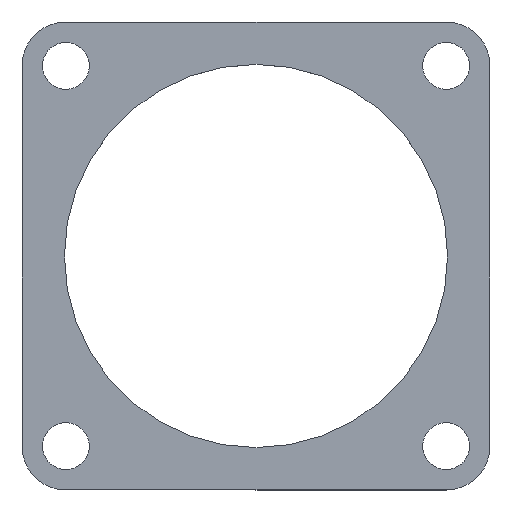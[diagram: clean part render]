
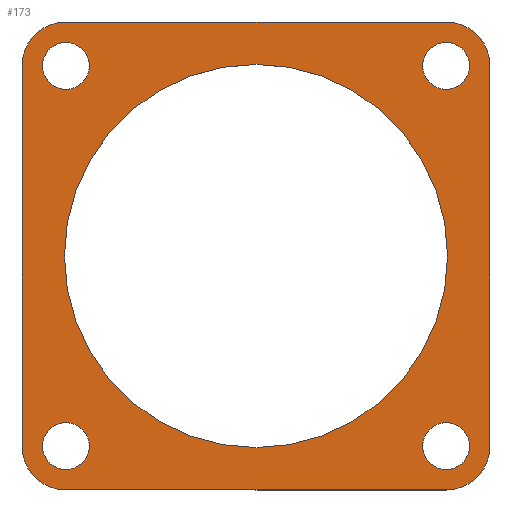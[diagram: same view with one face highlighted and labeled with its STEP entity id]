
A CAD part, top view. The second image highlights one B-rep face of the part: STEP entity #173.
In plain terms, the highlighted planar face has unit normal (0, 0, 1).
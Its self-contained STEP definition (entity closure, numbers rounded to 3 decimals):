
#1 = AXIS2_PLACEMENT_3D ( 'NONE', #299, #429, #178 ) ;
#6 = CARTESIAN_POINT ( 'NONE',  ( -13., 16., 1. ) ) ;
#10 = FACE_BOUND ( 'NONE', #175, .T. ) ;
#15 = EDGE_CURVE ( 'NONE', #332, #332, #71, .T. ) ;
#24 = VERTEX_POINT ( 'NONE', #499 ) ;
#29 = CIRCLE ( 'NONE', #315, 3. ) ;
#39 = EDGE_LOOP ( 'NONE', ( #193 ) ) ;
#45 = ORIENTED_EDGE ( 'NONE', *, *, #65, .T. ) ;
#48 = PLANE ( 'NONE',  #1 ) ;
#51 = FACE_BOUND ( 'NONE', #88, .T. ) ;
#53 = DIRECTION ( 'NONE',  ( 0., 0., 1. ) ) ;
#54 = DIRECTION ( 'NONE',  ( -1., 0., 0. ) ) ;
#64 = CIRCLE ( 'NONE', #384, 1.6 ) ;
#65 = EDGE_CURVE ( 'NONE', #491, #221, #113, .T. ) ;
#71 = CIRCLE ( 'NONE', #387, 1.6 ) ;
#73 = AXIS2_PLACEMENT_3D ( 'NONE', #118, #234, #228 ) ;
#76 = EDGE_CURVE ( 'NONE', #126, #126, #192, .T. ) ;
#77 = CIRCLE ( 'NONE', #73, 3. ) ;
#78 = CARTESIAN_POINT ( 'NONE',  ( 14.6, -13., 1. ) ) ;
#81 = CARTESIAN_POINT ( 'NONE',  ( -13., -16., 1. ) ) ;
#86 = AXIS2_PLACEMENT_3D ( 'NONE', #301, #53, #256 ) ;
#87 = VECTOR ( 'NONE', #54, 1000. ) ;
#88 = EDGE_LOOP ( 'NONE', ( #351 ) ) ;
#90 = VECTOR ( 'NONE', #110, 1000. ) ;
#94 = CARTESIAN_POINT ( 'NONE',  ( -13., -13., 1. ) ) ;
#102 = DIRECTION ( 'NONE',  ( 0., 0., 1. ) ) ;
#104 = DIRECTION ( 'NONE',  ( 1., 0., 0. ) ) ;
#108 = EDGE_CURVE ( 'NONE', #440, #491, #531, .T. ) ;
#109 = CARTESIAN_POINT ( 'NONE',  ( 16., -13., 1. ) ) ;
#110 = DIRECTION ( 'NONE',  ( 1., 0., 0. ) ) ;
#113 = LINE ( 'NONE', #6, #87 ) ;
#118 = CARTESIAN_POINT ( 'NONE',  ( -13., 13., 1. ) ) ;
#119 = CARTESIAN_POINT ( 'NONE',  ( -11.4, -13., 1. ) ) ;
#124 = CARTESIAN_POINT ( 'NONE',  ( 13., 13., 1. ) ) ;
#125 = AXIS2_PLACEMENT_3D ( 'NONE', #436, #146, #522 ) ;
#126 = VERTEX_POINT ( 'NONE', #78 ) ;
#128 = LINE ( 'NONE', #189, #202 ) ;
#129 = ORIENTED_EDGE ( 'NONE', *, *, #137, .F. ) ;
#131 = DIRECTION ( 'NONE',  ( 0., 0., 1. ) ) ;
#133 = VERTEX_POINT ( 'NONE', #373 ) ;
#137 = EDGE_CURVE ( 'NONE', #219, #219, #512, .T. ) ;
#141 = EDGE_CURVE ( 'NONE', #270, #403, #526, .T. ) ;
#142 = DIRECTION ( 'NONE',  ( 0., 0., 1. ) ) ;
#146 = DIRECTION ( 'NONE',  ( 0., 0., 1. ) ) ;
#154 = FACE_BOUND ( 'NONE', #293, .T. ) ;
#173 = ADVANCED_FACE ( 'NONE', ( #154, #51, #490, #484, #274, #10 ), #48, .T. ) ;
#175 = EDGE_LOOP ( 'NONE', ( #469 ) ) ;
#178 = DIRECTION ( 'NONE',  ( 1., 0., 0. ) ) ;
#179 = LINE ( 'NONE', #528, #90 ) ;
#182 = EDGE_CURVE ( 'NONE', #304, #304, #377, .T. ) ;
#189 = CARTESIAN_POINT ( 'NONE',  ( 16., 13., 1. ) ) ;
#191 = EDGE_CURVE ( 'NONE', #24, #500, #479, .T. ) ;
#192 = CIRCLE ( 'NONE', #240, 1.6 ) ;
#193 = ORIENTED_EDGE ( 'NONE', *, *, #182, .F. ) ;
#196 = CARTESIAN_POINT ( 'NONE',  ( -13., -13., 1. ) ) ;
#202 = VECTOR ( 'NONE', #348, 1000. ) ;
#211 = DIRECTION ( 'NONE',  ( 0., 0., 1. ) ) ;
#219 = VERTEX_POINT ( 'NONE', #119 ) ;
#221 = VERTEX_POINT ( 'NONE', #520 ) ;
#228 = DIRECTION ( 'NONE',  ( -1., 0., 0. ) ) ;
#234 = DIRECTION ( 'NONE',  ( 0., 0., 1. ) ) ;
#240 = AXIS2_PLACEMENT_3D ( 'NONE', #514, #211, #472 ) ;
#249 = ORIENTED_EDGE ( 'NONE', *, *, #191, .T. ) ;
#255 = DIRECTION ( 'NONE',  ( 0., 0., 1. ) ) ;
#256 = DIRECTION ( 'NONE',  ( -1., 0., 0. ) ) ;
#261 = DIRECTION ( 'NONE',  ( 0., -1., 0. ) ) ;
#262 = VECTOR ( 'NONE', #261, 1000. ) ;
#264 = EDGE_LOOP ( 'NONE', ( #457 ) ) ;
#270 = VERTEX_POINT ( 'NONE', #517 ) ;
#271 = EDGE_CURVE ( 'NONE', #403, #440, #128, .T. ) ;
#274 = FACE_BOUND ( 'NONE', #264, .T. ) ;
#275 = DIRECTION ( 'NONE',  ( 0., 0., 1. ) ) ;
#281 = CARTESIAN_POINT ( 'NONE',  ( 13.1, 0., 1. ) ) ;
#293 = EDGE_LOOP ( 'NONE', ( #129 ) ) ;
#299 = CARTESIAN_POINT ( 'NONE',  ( 13., -13., 1. ) ) ;
#301 = CARTESIAN_POINT ( 'NONE',  ( 13., 13., 1. ) ) ;
#302 = CARTESIAN_POINT ( 'NONE',  ( -16., 13., 1. ) ) ;
#304 = VERTEX_POINT ( 'NONE', #281 ) ;
#308 = ORIENTED_EDGE ( 'NONE', *, *, #141, .T. ) ;
#315 = AXIS2_PLACEMENT_3D ( 'NONE', #196, #275, #401 ) ;
#320 = EDGE_LOOP ( 'NONE', ( #308, #464, #404, #45, #339, #249, #381, #470 ) ) ;
#332 = VERTEX_POINT ( 'NONE', #538 ) ;
#333 = EDGE_CURVE ( 'NONE', #133, #133, #64, .T. ) ;
#339 = ORIENTED_EDGE ( 'NONE', *, *, #400, .T. ) ;
#348 = DIRECTION ( 'NONE',  ( 0., 1., 0. ) ) ;
#351 = ORIENTED_EDGE ( 'NONE', *, *, #333, .F. ) ;
#353 = CARTESIAN_POINT ( 'NONE',  ( -13., 13., 1. ) ) ;
#373 = CARTESIAN_POINT ( 'NONE',  ( -11.4, 13., 1. ) ) ;
#377 = CIRCLE ( 'NONE', #125, 13.1 ) ;
#381 = ORIENTED_EDGE ( 'NONE', *, *, #409, .T. ) ;
#384 = AXIS2_PLACEMENT_3D ( 'NONE', #353, #102, #104 ) ;
#387 = AXIS2_PLACEMENT_3D ( 'NONE', #124, #131, #467 ) ;
#390 = CARTESIAN_POINT ( 'NONE',  ( 13., -13., 1. ) ) ;
#400 = EDGE_CURVE ( 'NONE', #221, #24, #77, .T. ) ;
#401 = DIRECTION ( 'NONE',  ( -1., 0., 0. ) ) ;
#403 = VERTEX_POINT ( 'NONE', #109 ) ;
#404 = ORIENTED_EDGE ( 'NONE', *, *, #108, .T. ) ;
#409 = EDGE_CURVE ( 'NONE', #500, #481, #29, .T. ) ;
#429 = DIRECTION ( 'NONE',  ( 0., 0., 1. ) ) ;
#430 = DIRECTION ( 'NONE',  ( 1., 0., 0. ) ) ;
#436 = CARTESIAN_POINT ( 'NONE',  ( 0., 0., 1. ) ) ;
#440 = VERTEX_POINT ( 'NONE', #530 ) ;
#453 = EDGE_CURVE ( 'NONE', #481, #270, #179, .T. ) ;
#457 = ORIENTED_EDGE ( 'NONE', *, *, #15, .F. ) ;
#459 = CARTESIAN_POINT ( 'NONE',  ( -16., -13., 1. ) ) ;
#464 = ORIENTED_EDGE ( 'NONE', *, *, #271, .T. ) ;
#467 = DIRECTION ( 'NONE',  ( 1., 0., 0. ) ) ;
#469 = ORIENTED_EDGE ( 'NONE', *, *, #76, .F. ) ;
#470 = ORIENTED_EDGE ( 'NONE', *, *, #453, .T. ) ;
#471 = DIRECTION ( 'NONE',  ( 1., 0., 0. ) ) ;
#472 = DIRECTION ( 'NONE',  ( 1., 0., 0. ) ) ;
#474 = AXIS2_PLACEMENT_3D ( 'NONE', #390, #142, #430 ) ;
#479 = LINE ( 'NONE', #302, #262 ) ;
#481 = VERTEX_POINT ( 'NONE', #81 ) ;
#484 = FACE_BOUND ( 'NONE', #39, .T. ) ;
#490 = FACE_OUTER_BOUND ( 'NONE', #320, .T. ) ;
#491 = VERTEX_POINT ( 'NONE', #496 ) ;
#496 = CARTESIAN_POINT ( 'NONE',  ( 13., 16., 1. ) ) ;
#499 = CARTESIAN_POINT ( 'NONE',  ( -16., 13., 1. ) ) ;
#500 = VERTEX_POINT ( 'NONE', #459 ) ;
#512 = CIRCLE ( 'NONE', #518, 1.6 ) ;
#514 = CARTESIAN_POINT ( 'NONE',  ( 13., -13., 1. ) ) ;
#517 = CARTESIAN_POINT ( 'NONE',  ( 13., -16., 1. ) ) ;
#518 = AXIS2_PLACEMENT_3D ( 'NONE', #94, #255, #471 ) ;
#520 = CARTESIAN_POINT ( 'NONE',  ( -13., 16., 1. ) ) ;
#522 = DIRECTION ( 'NONE',  ( 1., 0., 0. ) ) ;
#526 = CIRCLE ( 'NONE', #474, 3. ) ;
#528 = CARTESIAN_POINT ( 'NONE',  ( -13., -16., 1. ) ) ;
#530 = CARTESIAN_POINT ( 'NONE',  ( 16., 13., 1. ) ) ;
#531 = CIRCLE ( 'NONE', #86, 3. ) ;
#538 = CARTESIAN_POINT ( 'NONE',  ( 14.6, 13., 1. ) ) ;
